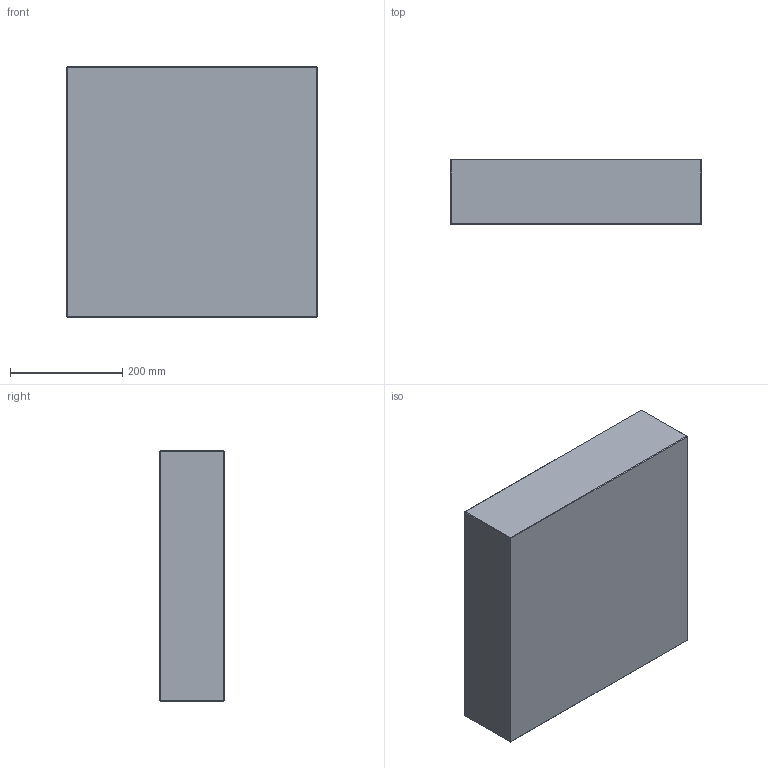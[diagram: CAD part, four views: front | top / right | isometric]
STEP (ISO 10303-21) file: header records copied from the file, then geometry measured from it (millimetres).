
FILE_DESCRIPTION (( 'STEP AP214' ), '1' );
FILE_NAME ('PC-P-446x446x116.STEP', '2020-04-01T11:10:10', ( 'August' ), ( '' ), 'SwSTEP 2.0', 'SolidWorks 2018', '' );
FILE_SCHEMA (( 'AUTOMOTIVE_DESIGN' ));
Length unit declared in the file: millimetre
Products named in the file (1): PC-P-446x446x116
Bounding box: 446 x 116 x 446 mm (x, y, z)
Volume: 23072245.3 mm3; surface area: 602411.1 mm2
Topology: 1 solids, 1 shells, 26 faces, 48 edges, 24 vertices
Faces by surface type: plane 26
Entity records: 634 total; most frequent: DIRECTION 102, CARTESIAN_POINT 99, ORIENTED_EDGE 96, EDGE_CURVE 48, VECTOR 48, LINE 48, AXIS2_PLACEMENT_3D 27, ADVANCED_FACE 26
